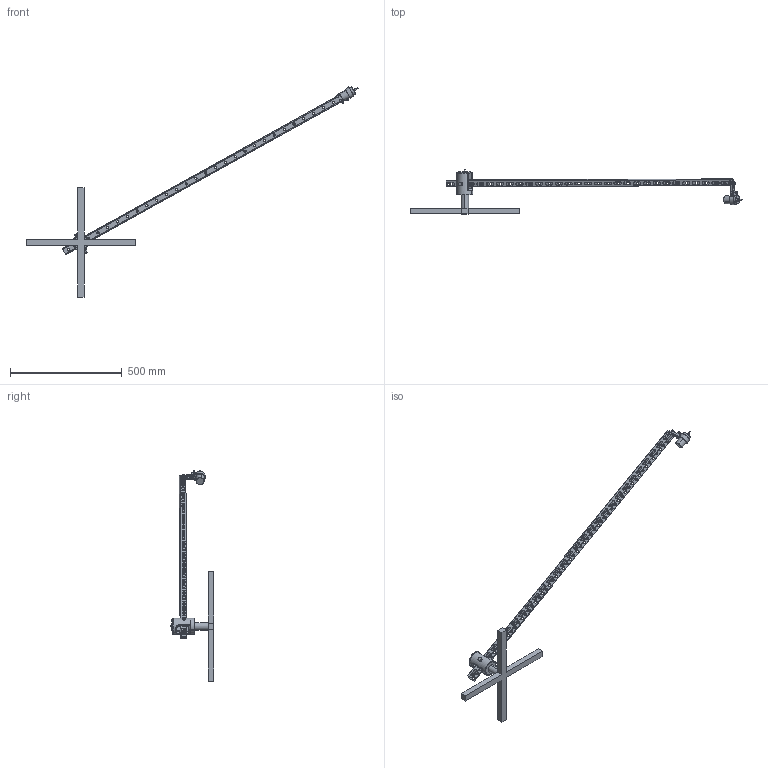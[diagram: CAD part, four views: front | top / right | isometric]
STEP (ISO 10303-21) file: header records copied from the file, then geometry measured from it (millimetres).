
FILE_DESCRIPTION (( 'STEP AP214' ), '1' );
FILE_NAME ('Testpink.STEP', '2025-05-19T11:51:23', ( '' ), ( '' ), 'SwSTEP 2.0', 'SolidWorks 2024', '' );
FILE_SCHEMA (( 'AUTOMOTIVE_DESIGN' ));
Length unit declared in the file: millimetre
Products named in the file (22): hex thin nut chamfered gradeab_iso_ISO - 4035 - M8 - N; Latt; slipring_adapter2; Bearing; KK.006.002.Motor_clamp_encoded_motor; hex thin nut chamfered gradeab_iso_ISO - 4035 - M10 - N; pan head cross recess screw_iso_ISO 7045 - M3 x 10 - Z - 10N; Greartisan DC 12V 30 RPM; Connection; hex thin nut chamfered gradeab_iso_ISO - 4035 - M5 - N; Base; Top Slip Ring3; pan head cross recess screw_iso_ISO 7045 - M5 x 40 - Z - 40N; pan head cross recess screw_iso_ISO 7045 - M4 x 10 - Z - 10N; KK.025.001.Motor_arm; hex bolt gradeab_iso_ISO 4014 - M10 x 90 x 26-N; Testpink; SlipRing; hex bolt gradeab_iso_ISO 4014 - M8 x 40 x 22-N; pan head cross recess screw_iso_ISO 7045 - M5 x 25 - Z - 25N; socket head cap screw_din_DIN 912 M4 x 6 --- 6N; Spacer
Assembly tree (29 placements, depth 2):
  Testpink
    Base
    Bearing
    Latt
    Greartisan DC 12V 30 RPM
    KK.006.002.Motor_clamp_encoded_motor
    Connection
    KK.025.001.Motor_arm
    Spacer
    Top Slip Ring3
    slipring_adapter2
    SlipRing
    socket head cap screw_din_DIN 912 M4 x 6 --- 6N  x2
    pan head cross recess screw_iso_ISO 7045 - M5 x 25 - Z - 25N
    pan head cross recess screw_iso_ISO 7045 - M4 x 10 - Z - 10N  x3
    pan head cross recess screw_iso_ISO 7045 - M3 x 10 - Z - 10N  x3
    hex thin nut chamfered gradeab_iso_ISO - 4035 - M5 - N  x2
    pan head cross recess screw_iso_ISO 7045 - M5 x 40 - Z - 40N
    hex bolt gradeab_iso_ISO 4014 - M10 x 90 x 26-N
    hex bolt gradeab_iso_ISO 4014 - M8 x 40 x 22-N  x2
    hex thin nut chamfered gradeab_iso_ISO - 4035 - M8 - N  x2
    hex thin nut chamfered gradeab_iso_ISO - 4035 - M10 - N
Bounding box: 1483.94 x 196.4 x 939.92 mm (x, y, z)
Volume: 1380911.2 mm3; surface area: 442973.4 mm2
Topology: 29 solids, 29 shells, 1262 faces, 3133 edges, 1934 vertices
Faces by surface type: plane 476, cylinder 449, cone 260, torus 57, sphere 16, bspline 4
Entity records: 32653 total; most frequent: CARTESIAN_POINT 6763, DIRECTION 5574, ORIENTED_EDGE 5018, EDGE_CURVE 2509, AXIS2_PLACEMENT_3D 2215, VERTEX_POINT 1577, EDGE_LOOP 1312, CIRCLE 1191
